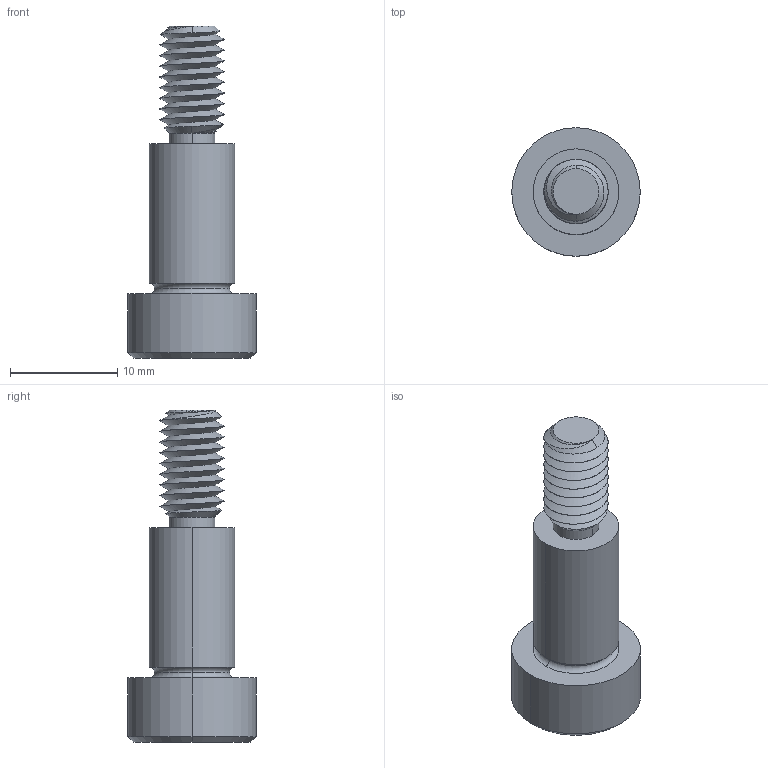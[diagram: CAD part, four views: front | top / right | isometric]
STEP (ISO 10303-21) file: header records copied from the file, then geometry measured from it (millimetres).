
FILE_DESCRIPTION (( 'STEP AP203' ), '1' );
FILE_NAME ('P0130.080-014-B2.step', '2021-11-09T21:36:47', ( '' ), ( '' ), 'SwSTEP 2.0', 'SolidWorks 2019', '' );
FILE_SCHEMA (( 'CONFIG_CONTROL_DESIGN' ));
Length unit declared in the file: millimetre
Products named in the file (1): P0130.080-014-B2
Bounding box: 12 x 12 x 31 mm (x, y, z)
Volume: 1530 mm3; surface area: 1184.7 mm2
Topology: 1 solids, 1 shells, 60 faces, 142 edges, 85 vertices
Faces by surface type: cylinder 24, plane 16, cone 14, torus 4, bspline 2
Entity records: 4245 total; most frequent: CARTESIAN_POINT 2899, ORIENTED_EDGE 280, DIRECTION 247, EDGE_CURVE 140, AXIS2_PLACEMENT_3D 99, VERTEX_POINT 85, EDGE_LOOP 63, FACE_OUTER_BOUND 60
